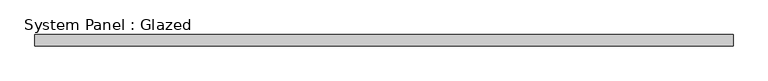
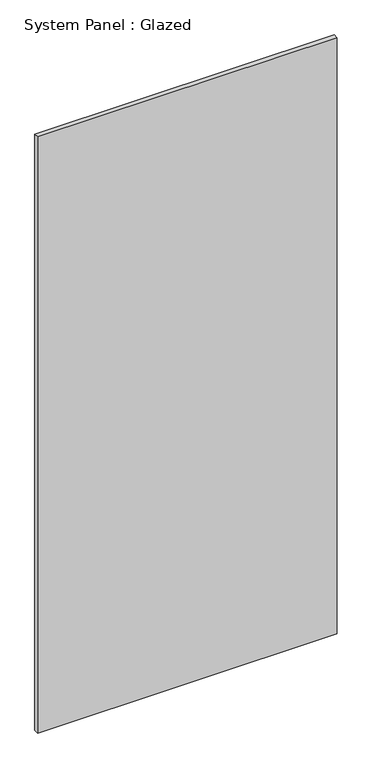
"""IFC4 building model written with IfcOpenShell, lengths in millimetres: plate geometry, System Panel : Glazed."""

from ifc_helpers import new_model, si_unit, origin, origin_with_axes, place, context, project, spatial, polyline, outline, extrude, source, transform, mapped, element, save


def system_panel_glazed_3dc34c55(model_context):
    return source(origin(), model_context, "Body", "SweptSolid", [
        extrude(outline(polyline([(796.9250048, 19.05), (-796.9250048, 19.05), (-796.9250048, 44.45), (796.9250048, 44.45), (796.9250048, 19.05)])), origin_with_axes(), (0.0, 0.0, 1.0), 3352.8),
    ])


if __name__ == "__main__":
    model = new_model("IFC4")
    model_context = context("Model", 3, world=origin())
    ifc_project = project(units=[si_unit("LENGTHUNIT", "METRE", prefix="MILLI")], contexts=[model_context])
    site = spatial("IfcSite", under=ifc_project)
    building = spatial("IfcBuilding", under=site)
    placement = place(None, origin())
    system_panel_glazed_shape = system_panel_glazed_3dc34c55(model_context)
    element("IfcPlate", 1, ObjectType="System Panel : Glazed", at=placement, inside=building, context=model_context, shape_type="MappedRepresentation", body=[
        mapped(system_panel_glazed_shape, transform((0.0, 0.0, 0.0), x_axis=(1.0, 0.0, 0.0), y_axis=(0.0, 1.0, 0.0), z_axis=(0.0, 0.0, 1.0))),
    ])
    save(model, "model.ifc")
